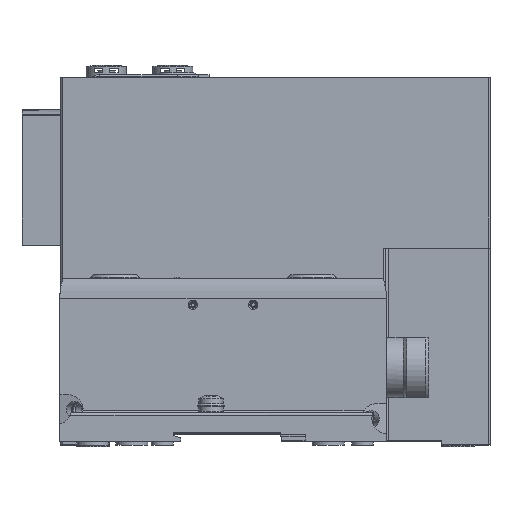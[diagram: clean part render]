
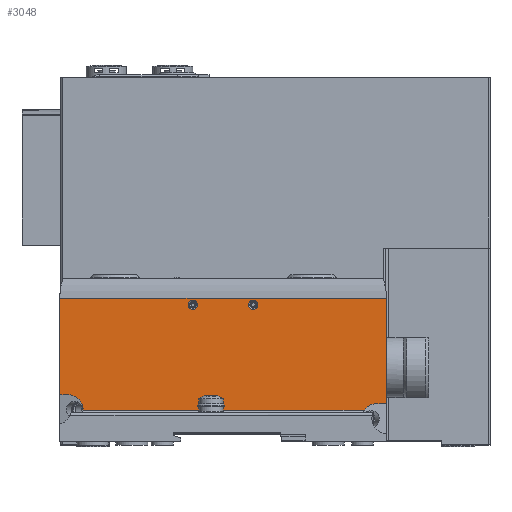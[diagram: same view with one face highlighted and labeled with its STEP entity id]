
A CAD part, top view. The second image highlights one B-rep face of the part: STEP entity #3048.
In plain terms, the highlighted planar face has unit normal (0, 0, 1) as drawn and (-1, 0, 0) by its records, which use the part's own axes.
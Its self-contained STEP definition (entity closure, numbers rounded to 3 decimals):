
#3048 = ADVANCED_FACE( '', ( #7362, #7363, #7364 ), #7365, .F. );
#7362 = FACE_BOUND( '', #13477, .T. );
#7363 = FACE_BOUND( '', #13478, .T. );
#7364 = FACE_OUTER_BOUND( '', #13479, .T. );
#7365 = PLANE( '', #13480 );
#13477 = EDGE_LOOP( '', ( #22033 ) );
#13478 = EDGE_LOOP( '', ( #22034 ) );
#13479 = EDGE_LOOP( '', ( #22035, #22036, #22037, #22038, #22039, #22040, #22041, #22042 ) );
#13480 = AXIS2_PLACEMENT_3D( '', #22043, #22044, #22045 );
#22033 = ORIENTED_EDGE( '', *, *, #35300, .T. );
#22034 = ORIENTED_EDGE( '', *, *, #33598, .T. );
#22035 = ORIENTED_EDGE( '', *, *, #35301, .T. );
#22036 = ORIENTED_EDGE( '', *, *, #35302, .T. );
#22037 = ORIENTED_EDGE( '', *, *, #35303, .F. );
#22038 = ORIENTED_EDGE( '', *, *, #35304, .F. );
#22039 = ORIENTED_EDGE( '', *, *, #35305, .F. );
#22040 = ORIENTED_EDGE( '', *, *, #35306, .T. );
#22041 = ORIENTED_EDGE( '', *, *, #35307, .F. );
#22042 = ORIENTED_EDGE( '', *, *, #35308, .T. );
#22043 = CARTESIAN_POINT( '', ( -15.4, 48.7, 54.05 ) );
#22044 = DIRECTION( '', ( 1., 0., 0. ) );
#22045 = DIRECTION( '', ( 0., 0., -1. ) );
#33598 = EDGE_CURVE( '', #39800, #39800, #39801, .T. );
#35300 = EDGE_CURVE( '', #42633, #42633, #42634, .T. );
#35301 = EDGE_CURVE( '', #42635, #42636, #42637, .T. );
#35302 = EDGE_CURVE( '', #42636, #42638, #42639, .T. );
#35303 = EDGE_CURVE( '', #42640, #42638, #42641, .F. );
#35304 = EDGE_CURVE( '', #42642, #42640, #42643, .T. );
#35305 = EDGE_CURVE( '', #42644, #42642, #42645, .F. );
#35306 = EDGE_CURVE( '', #42644, #42646, #42647, .T. );
#35307 = EDGE_CURVE( '', #42648, #42646, #42649, .T. );
#35308 = EDGE_CURVE( '', #42648, #42635, #42650, .T. );
#39800 = VERTEX_POINT( '', #48783 );
#39801 = CIRCLE( '', #48784, 1.55 );
#42633 = VERTEX_POINT( '', #52904 );
#42634 = CIRCLE( '', #52905, 1.55 );
#42635 = VERTEX_POINT( '', #52906 );
#42636 = VERTEX_POINT( '', #52907 );
#42637 = LINE( '', #52908, #52909 );
#42638 = VERTEX_POINT( '', #52910 );
#42639 = LINE( '', #52911, #52912 );
#42640 = VERTEX_POINT( '', #52913 );
#42641 = ELLIPSE( '', #52914, 5.176, 5. );
#42642 = VERTEX_POINT( '', #52915 );
#42643 = LINE( '', #52916, #52917 );
#42644 = VERTEX_POINT( '', #52918 );
#42645 = ELLIPSE( '', #52919, 5.132, 5. );
#42646 = VERTEX_POINT( '', #52920 );
#42647 = LINE( '', #52921, #52922 );
#42648 = VERTEX_POINT( '', #52923 );
#42649 = LINE( '', #52924, #52925 );
#42650 = LINE( '', #52926, #52927 );
#48783 = CARTESIAN_POINT( '', ( -15.4, 46.55, 8.45 ) );
#48784 = AXIS2_PLACEMENT_3D( '', #59986, #59987, #59988 );
#52904 = CARTESIAN_POINT( '', ( -15.4, 46.55, -11.55 ) );
#52905 = AXIS2_PLACEMENT_3D( '', #62307, #62308, #62309 );
#52906 = CARTESIAN_POINT( '', ( -15.4, 48.7, -54.05 ) );
#52907 = CARTESIAN_POINT( '', ( -15.4, 16.8, -54.05 ) );
#52908 = CARTESIAN_POINT( '', ( -15.4, 48.7, -54.05 ) );
#52909 = VECTOR( '', #62310, 1000. );
#52910 = CARTESIAN_POINT( '', ( -15.4, 16.8, -51.491 ) );
#52911 = CARTESIAN_POINT( '', ( -15.4, 16.8, 54.05 ) );
#52912 = VECTOR( '', #62311, 1000. );
#52913 = CARTESIAN_POINT( '', ( -15.4, 11.6, -46.319 ) );
#52914 = AXIS2_PLACEMENT_3D( '', #62312, #62313, #62314 );
#52915 = CARTESIAN_POINT( '', ( -15.4, 11.6, 46.669 ) );
#52916 = CARTESIAN_POINT( '', ( -15.4, 11.6, 54.05 ) );
#52917 = VECTOR( '', #62315, 1000. );
#52918 = CARTESIAN_POINT( '', ( -15.4, 13.8, 50.92 ) );
#52919 = AXIS2_PLACEMENT_3D( '', #62316, #62317, #62318 );
#52920 = CARTESIAN_POINT( '', ( -15.4, 13.8, 54.05 ) );
#52921 = CARTESIAN_POINT( '', ( -15.4, 13.8, 54.05 ) );
#52922 = VECTOR( '', #62319, 1000. );
#52923 = CARTESIAN_POINT( '', ( -15.4, 48.7, 54.05 ) );
#52924 = CARTESIAN_POINT( '', ( -15.4, 48.7, 54.05 ) );
#52925 = VECTOR( '', #62320, 1000. );
#52926 = CARTESIAN_POINT( '', ( -15.4, 48.7, 54.05 ) );
#52927 = VECTOR( '', #62321, 1000. );
#59986 = CARTESIAN_POINT( '', ( -15.4, 46.55, 10. ) );
#59987 = DIRECTION( '', ( 1., 0., 0. ) );
#59988 = DIRECTION( '', ( 0., 0., -1. ) );
#62307 = CARTESIAN_POINT( '', ( -15.4, 46.55, -10. ) );
#62308 = DIRECTION( '', ( 1., 0., 0. ) );
#62309 = DIRECTION( '', ( 0., 0., -1. ) );
#62310 = DIRECTION( '', ( 0., -1., 0. ) );
#62311 = DIRECTION( '', ( 0., 0., 1. ) );
#62312 = CARTESIAN_POINT( '', ( -15.4, 11.8, -51.491 ) );
#62313 = DIRECTION( '', ( 1., 0., 0. ) );
#62314 = DIRECTION( '', ( 0., 0., 1. ) );
#62315 = DIRECTION( '', ( 0., 0., -1. ) );
#62316 = CARTESIAN_POINT( '', ( -15.4, 8.8, 50.92 ) );
#62317 = DIRECTION( '', ( 1., 0., 0. ) );
#62318 = DIRECTION( '', ( 0., 0., -1. ) );
#62319 = DIRECTION( '', ( 0., 0., 1. ) );
#62320 = DIRECTION( '', ( 0., -1., 0. ) );
#62321 = DIRECTION( '', ( 0., 0., -1. ) );
